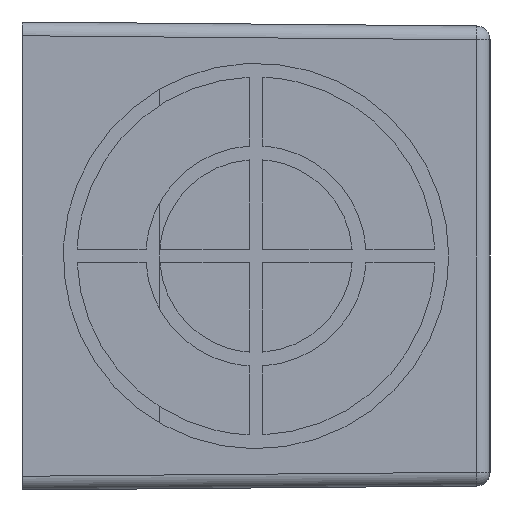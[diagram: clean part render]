
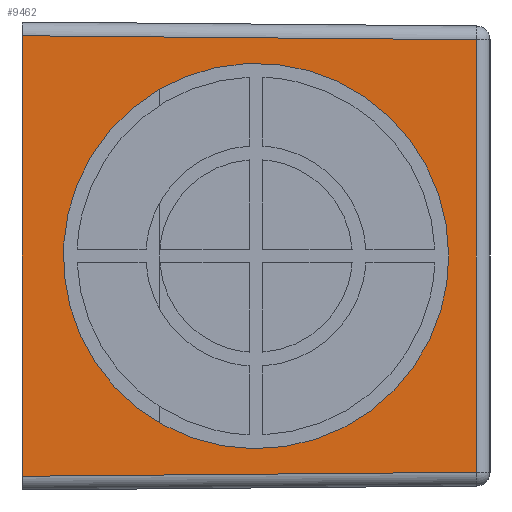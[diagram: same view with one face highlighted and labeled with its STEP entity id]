
A CAD part, left-side view. The second image highlights one B-rep face of the part: STEP entity #9462.
In plain terms, the highlighted planar face has unit normal (-1, -0.009, 0).
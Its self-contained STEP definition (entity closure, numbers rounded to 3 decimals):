
#480=ELLIPSE('',#9834,7.,7.);
#1322=LINE('',#16551,#2246);
#1348=LINE('',#16629,#2272);
#1349=LINE('',#16635,#2273);
#1350=LINE('',#16637,#2274);
#2246=VECTOR('',#11298,16.);
#2272=VECTOR('',#11376,16.506);
#2273=VECTOR('',#11385,15.712);
#2274=VECTOR('',#11388,16.506);
#2407=FACE_BOUND('',#3418,.T.);
#2877=FACE_OUTER_BOUND('',#3417,.T.);
#3417=EDGE_LOOP('',(#7989,#7990,#7991,#7992));
#3418=EDGE_LOOP('',(#7993));
#4277=VERTEX_POINT('',#16548);
#4278=VERTEX_POINT('',#16550);
#4304=VERTEX_POINT('',#16627);
#4305=VERTEX_POINT('',#16633);
#4306=VERTEX_POINT('',#16638);
#5508=EDGE_CURVE('',#4277,#4278,#1322,.T.);
#5546=EDGE_CURVE('',#4277,#4304,#1348,.T.);
#5549=EDGE_CURVE('',#4305,#4304,#1349,.T.);
#5550=EDGE_CURVE('',#4278,#4305,#1350,.T.);
#5551=EDGE_CURVE('',#4306,#4306,#480,.T.);
#7989=ORIENTED_EDGE('',*,*,#5549,.F.);
#7990=ORIENTED_EDGE('',*,*,#5550,.F.);
#7991=ORIENTED_EDGE('',*,*,#5508,.F.);
#7992=ORIENTED_EDGE('',*,*,#5546,.T.);
#7993=ORIENTED_EDGE('',*,*,#5551,.F.);
#8503=PLANE('',#9833);
#9462=ADVANCED_FACE('',(#2877,#2407),#8503,.T.);
#9833=AXIS2_PLACEMENT_3D('',#16636,#11386,#11387);
#9834=AXIS2_PLACEMENT_3D('',#16639,#11389,#11390);
#11298=DIRECTION('',(0.,0.,1.));
#11376=DIRECTION('',(0.009,-1.,0.009));
#11385=DIRECTION('',(0.,0.,-1.));
#11386=DIRECTION('center_axis',(-1.,-0.009,
0.));
#11387=DIRECTION('ref_axis',(0.,0.,1.));
#11388=DIRECTION('',(0.009,-1.,-0.009));
#11389=DIRECTION('center_axis',(-1.,-0.009,
0.));
#11390=DIRECTION('ref_axis',(0.009,-1.,0.));
#16548=CARTESIAN_POINT('',(-14.,0.,-8.));
#16550=CARTESIAN_POINT('',(-14.,0.,8.));
#16551=CARTESIAN_POINT('',(-14.,0.,-8.));
#16627=CARTESIAN_POINT('',(-13.856,-16.504,-7.856));
#16629=CARTESIAN_POINT('',(-14.,0.,-8.));
#16633=CARTESIAN_POINT('',(-13.856,-16.504,7.856));
#16635=CARTESIAN_POINT('',(-13.856,-16.504,7.856));
#16636=CARTESIAN_POINT('Origin',(-14.,0.,-9.943));
#16637=CARTESIAN_POINT('',(-14.,0.,8.));
#16638=CARTESIAN_POINT('',(-13.865,-15.5,0.));
#16639=CARTESIAN_POINT('Origin',(-13.926,-8.5,0.));
